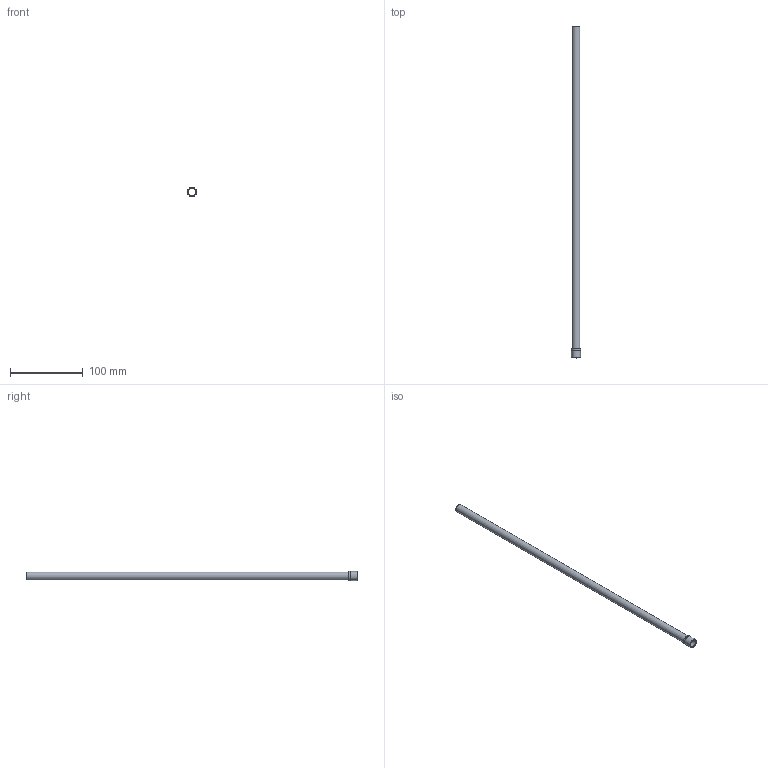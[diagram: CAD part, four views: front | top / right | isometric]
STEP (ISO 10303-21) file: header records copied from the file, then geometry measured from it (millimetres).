
FILE_DESCRIPTION(/* description */ (''),/* implementation_level */ '2;1');
FILE_NAME(/* name */ 'C:/Users/drich/Desktop/HF437T-18 v1.step',/* time_stamp */ '2019-12-30T13:30:46-06:00',/* author */ (''),/* organization */ (''),/* preprocessor_version */ 'ST-DEVELOPER v18',/* originating_system */ 'Autodesk Translation Framework v8.12.0.6',/* authorisation */ '');
FILE_SCHEMA (('AUTOMOTIVE_DESIGN { 1 0 10303 214 3 1 1 }'));
Length unit declared in the file: inch
Products named in the file (1): HF437T-18
Bounding box: 12.75 x 457.2 x 12.75 mm (x, y, z)
Volume: 6133.7 mm3; surface area: 30210.7 mm2
Topology: 1 solids, 1 shells, 12 faces, 30 edges, 22 vertices
Faces by surface type: plane 4, cylinder 4, torus 3, cone 1
Full cylindrical faces by diameter (mm): 10.084 x1, 10.846 x1, 12.565 x1, 12.751 x1
Entity records: 426 total; most frequent: DIRECTION 81, CARTESIAN_POINT 65, ORIENTED_EDGE 60, AXIS2_PLACEMENT_3D 38, EDGE_CURVE 30, CIRCLE 25, VERTEX_POINT 22, EDGE_LOOP 16
